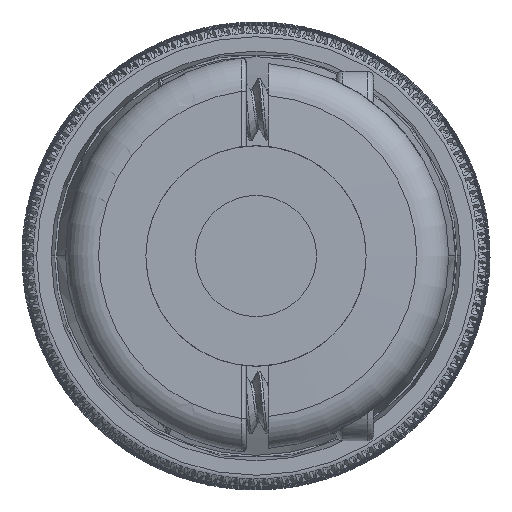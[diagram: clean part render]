
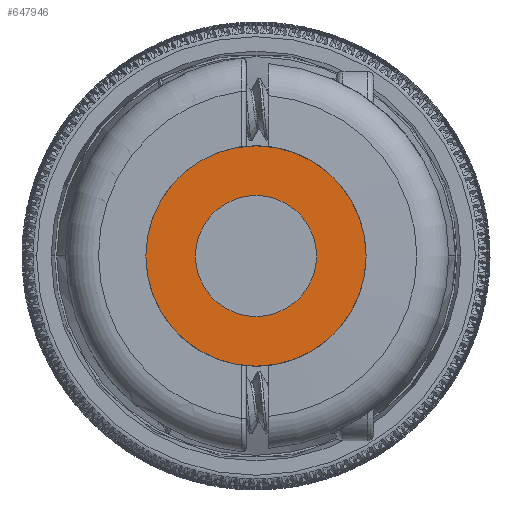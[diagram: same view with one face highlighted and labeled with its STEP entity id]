
A CAD part, front view. The second image highlights one B-rep face of the part: STEP entity #647946.
In plain terms, the highlighted planar face has unit normal (0, -1, 0).
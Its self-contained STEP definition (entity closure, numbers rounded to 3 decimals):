
#220131=CARTESIAN_POINT('',(0.,-51.232,0.));
#220132=DIRECTION('',(0.,1.,0.));
#220133=DIRECTION('',(-1.,0.,0.));
#220134=AXIS2_PLACEMENT_3D('',#220131,#220132,#220133);
#220136=CARTESIAN_POINT('',(0.,-51.232,0.));
#220137=DIRECTION('',(0.,1.,0.));
#220138=DIRECTION('',(1.,0.,0.));
#220139=AXIS2_PLACEMENT_3D('',#220136,#220137,#220138);
#220141=CARTESIAN_POINT('',(0.,-51.232,0.));
#220142=DIRECTION('',(0.,-1.,0.));
#220143=DIRECTION('',(-1.,0.,0.));
#220144=AXIS2_PLACEMENT_3D('',#220141,#220142,#220143);
#220146=CARTESIAN_POINT('',(0.,-51.232,0.));
#220147=DIRECTION('',(0.,-1.,0.));
#220148=DIRECTION('',(1.,0.,0.));
#220149=AXIS2_PLACEMENT_3D('',#220146,#220147,#220148);
#244601=CARTESIAN_POINT('',(5.,-51.232,0.));
#244602=VERTEX_POINT('',#244601);
#244603=CARTESIAN_POINT('',(-5.,-51.232,0.));
#244604=VERTEX_POINT('',#244603);
#245027=CARTESIAN_POINT('',(-2.75,-51.232,0.));
#245028=CARTESIAN_POINT('',(2.75,-51.232,0.));
#245029=VERTEX_POINT('',#245027);
#245030=VERTEX_POINT('',#245028);
#647931=CARTESIAN_POINT('',(0.,-51.232,0.));
#647932=DIRECTION('',(0.,1.,0.));
#647933=DIRECTION('',(-1.,0.,0.));
#647934=AXIS2_PLACEMENT_3D('',#647931,#647932,#647933);
#647935=PLANE('',#647934);
#647936=ORIENTED_EDGE('',*,*,#642225,.T.);
#647937=ORIENTED_EDGE('',*,*,#644507,.T.);
#647938=EDGE_LOOP('',(#647936,#647937));
#647939=FACE_OUTER_BOUND('',#647938,.F.);
#647941=ORIENTED_EDGE('',*,*,#647940,.T.);
#647943=ORIENTED_EDGE('',*,*,#647942,.T.);
#647944=EDGE_LOOP('',(#647941,#647943));
#647945=FACE_BOUND('',#647944,.F.);
#647946=ADVANCED_FACE('',(#647939,#647945),#647935,.F.);
#220135=CIRCLE('',#220134,5.);
#220140=CIRCLE('',#220139,5.);
#220145=CIRCLE('',#220144,2.75);
#220150=CIRCLE('',#220149,2.75);
#642225=EDGE_CURVE('',#244604,#244602,#220135,.T.);
#644507=EDGE_CURVE('',#244602,#244604,#220140,.T.);
#647940=EDGE_CURVE('',#245029,#245030,#220145,.T.);
#647942=EDGE_CURVE('',#245030,#245029,#220150,.T.);
